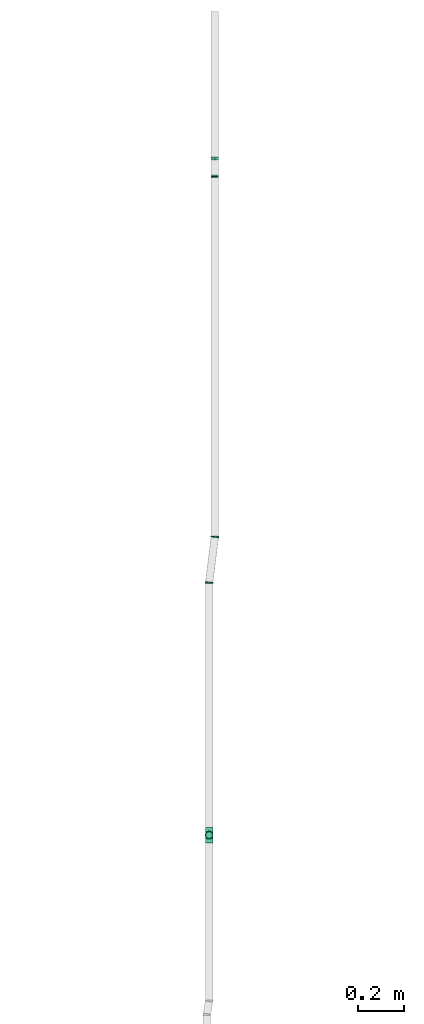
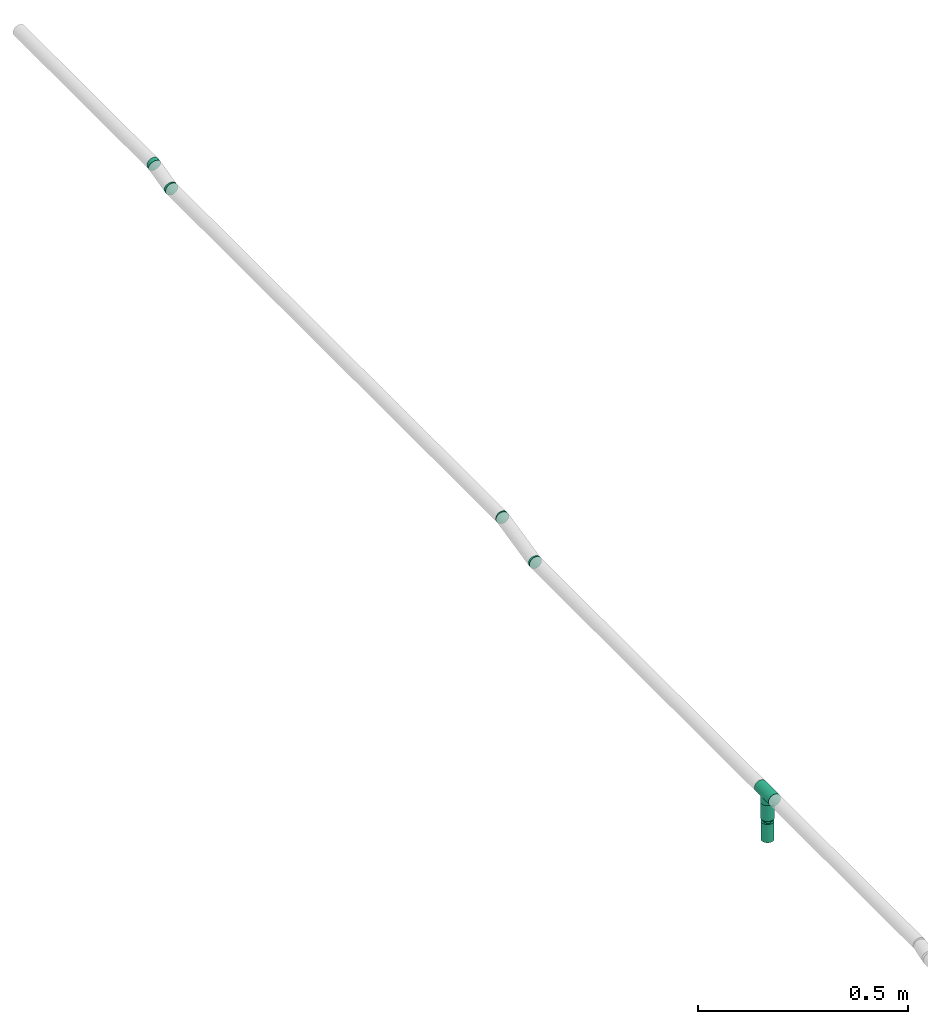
# One storey, part 17 of 32: 6 flow fittings, 1 flow segment, 1 flow terminal.
"""IFC2X3 building model written with IfcOpenShell, lengths in millimetres."""

from ifc_helpers import new_model, entity, si_unit, converted_unit, derived_unit, direction, frame, origin_with_axes, origin_2d_with_axis, place, context, subcontext, project, spatial, hollow_circle, extrude, open_shell, surface_model, source, transform, mapped, type_object, element, save


model = new_model("IFC2X3")

# Units and contexts
model_context = context("Model", 3, precision=0.01, world=frame((0.0, 4.29681676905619e-09, 0.0)), true_north=direction((4.01073788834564e-13, 1.0)))
plan_context = context("Plan", 3, precision=0.01, world=frame((0.0, 4.29681676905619e-09, 0.0)), true_north=direction((4.01073788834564e-13, 1.0)))
body_context = subcontext(model_context, "Body", "Model", "MODEL_VIEW")
ifc_project = project(units=[converted_unit("PLANEANGLEUNIT", "DEGREE", entity("IfcPositiveLengthMeasure", 0.0174532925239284), si_unit("PLANEANGLEUNIT", "RADIAN"), dimensions=[0, 0, 0, 0, 0, 0, 0]), si_unit("AREAUNIT", "SQUARE_METRE"), si_unit("LENGTHUNIT", "METRE", prefix="MILLI"), si_unit("MASSUNIT", "GRAM", prefix="KILO"), si_unit("POWERUNIT", "WATT"), si_unit("PRESSUREUNIT", "PASCAL", prefix="KILO"), si_unit("FORCEUNIT", "NEWTON", prefix="KILO"), si_unit("ELECTRICVOLTAGEUNIT", "VOLT"), si_unit("ELECTRICCURRENTUNIT", "AMPERE"), si_unit("THERMODYNAMICTEMPERATUREUNIT", "DEGREE_CELSIUS"), si_unit("TIMEUNIT", "SECOND"), si_unit("VOLUMEUNIT", "CUBIC_METRE"), derived_unit("LINEARVELOCITYUNIT", [(si_unit("LENGTHUNIT", "METRE"), 1), (si_unit("TIMEUNIT", "SECOND"), -1)]), derived_unit("VOLUMETRICFLOWRATEUNIT", [(si_unit("VOLUMEUNIT", "CUBIC_METRE"), 1), (si_unit("TIMEUNIT", "SECOND"), -1)]), derived_unit("THERMALTRANSMITTANCEUNIT", [(si_unit("POWERUNIT", "WATT"), 1), (si_unit("THERMODYNAMICTEMPERATUREUNIT", "KELVIN"), -1), (si_unit("AREAUNIT", "SQUARE_METRE"), -1)]), derived_unit("SOUNDPRESSUREUNIT", [(si_unit("PRESSUREUNIT", "PASCAL"), 1)])], contexts=[model_context, plan_context])

# Site, building, storey
site_placement = place(None, frame((0.0, -4.29681676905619e-09, 0.0), z_axis=(0.0, 0.0, 1.0), x_axis=(1.0, 0.0, 0.0)))
site = spatial("IfcSite", under=ifc_project, at=site_placement, CompositionType="ELEMENT")
building_placement = place(site_placement, frame((0.0, 4.29681676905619e-09, 0.0), z_axis=(0.0, 0.0, 1.0), x_axis=(1.0, 0.0, 0.0)))
building = spatial("IfcBuilding", under=site, at=building_placement, Name="mc-building", CompositionType="ELEMENT")
storey_placement = place(building_placement, frame((0.0, 0.0, 205200.0), z_axis=(0.0, 0.0, 1.0), x_axis=(1.0, 0.0, 0.0)))
storey = spatial("IfcBuildingStorey", under=building, at=storey_placement, Name="Nivå D + 1,2 m", CompositionType="ELEMENT", Elevation=205200.0)

# Flow fittings
pipe_fitting_type_1 = type_object("IfcPipeFittingType", Name="magi_pipe_fe_tee_centric_90_001", PredefinedType="JUNCTION")
shared_shape_1 = source(origin_with_axes(), body_context, "Body", "SurfaceModel", [
    surface_model("IfcShellBasedSurfaceModel", [(-33.8, 4.37404, -16.32415), (-33.8, 0.0, -16.9), (-33.8, 16.32415, -4.37404), (-33.8, 8.45, -14.63583), (-33.8, 11.9501, -11.9501), (-33.8, 14.63583, -8.45), (-33.8, -16.9, 0.0), (-33.8, -11.9501, -11.9501), (-33.8, -14.63583, -8.45), (-33.8, -8.45, -14.63583), (-33.8, -4.37404, -16.32415), (-33.8, -16.32415, -4.37404), (-33.8, 14.63583, 8.45), (-33.8, 16.32415, 4.37404), (-33.8, -8.45, 14.63583), (-33.8, 8.45, 14.63583), (-33.8, 11.9501, 11.9501), (-33.8, 4.37404, 16.32415), (-33.8, 0.0, 16.9), (-33.8, -11.9501, 11.9501), (-33.8, -14.63583, 8.45), (-33.8, -16.32415, 4.37404), (-33.8, -4.37404, 16.32415), (-33.8, 16.9, 0.0), (33.8, 4.37404, -16.32415), (33.8, -16.9, 0.0), (33.8, 0.0, -16.9), (33.8, 14.63583, -8.45), (33.8, 8.45, -14.63583), (33.8, 16.32415, -4.37404), (33.8, 11.9501, -11.9501), (33.8, -16.32415, 4.37404), (33.8, -8.45, -14.63583), (33.8, -4.37404, -16.32415), (33.8, -11.9501, -11.9501), (33.8, -14.63583, -8.45), (33.8, -16.32415, -4.37404), (33.8, 16.32415, 4.37404), (33.8, 8.45, 14.63583), (33.8, 14.63583, 8.45), (33.8, 11.9501, 11.9501), (33.8, -8.45, 14.63583), (33.8, 4.37404, 16.32415), (33.8, -14.63583, 8.45), (33.8, -11.9501, 11.9501), (33.8, 0.0, 16.9), (33.8, -4.37404, 16.32415), (33.8, 16.9, 0.0), (16.28698, -16.28698, 4.51047), (16.9, -16.9, 0.0), (14.62704, -14.62704, 8.4652), (9.47213, -9.47213, 13.99602), (12.26343, -12.26343, 11.62834), (-16.9, -16.9, 0.0), (-16.28698, -16.28698, 4.51047), (-14.62704, -14.62704, 8.4652), (-12.26343, -12.26343, 11.62834), (-9.47213, -9.47213, 13.99602), (-6.42894, -6.42894, 15.62942), (6.42894, -6.42894, 15.62942), (3.24522, -3.24522, 16.58549), (0.0, 0.0, 16.9), (-3.24522, -3.24522, 16.58549), (3.24522, -3.24522, -16.58549), (0.0, 0.0, -16.9), (-3.24522, -3.24522, -16.58549), (-6.42894, -6.42894, -15.62942), (6.42894, -6.42894, -15.62942), (9.47213, -9.47213, -13.99602), (12.26343, -12.26343, -11.62834), (14.62704, -14.62704, -8.4652), (16.28698, -16.28698, -4.51047), (-9.47213, -9.47213, -13.99602), (-12.26343, -12.26343, -11.62834), (-16.28698, -16.28698, -4.51047), (-14.62704, -14.62704, -8.4652), (4.37404, -25.35, -16.32415), (-16.9, -25.35, 0.0), (0.0, -25.35, -16.9), (14.63583, -25.35, -8.45), (8.45, -25.35, -14.63583), (16.32415, -25.35, -4.37404), (11.9501, -25.35, -11.9501), (-11.9501, -25.35, -11.9501), (-8.45, -25.35, -14.63583), (-4.37404, -25.35, -16.32415), (-14.63583, -25.35, -8.45), (-16.32415, -25.35, -4.37404), (16.9, -25.35, 0.0), (8.45, -25.35, 14.63583), (16.32415, -25.35, 4.37404), (14.63583, -25.35, 8.45), (-8.45, -25.35, 14.63583), (11.9501, -25.35, 11.9501), (4.37404, -25.35, 16.32415), (-16.32415, -25.35, 4.37404), (-11.9501, -25.35, 11.9501), (-14.63583, -25.35, 8.45), (0.0, -25.35, 16.9), (-4.37404, -25.35, 16.32415)], [open_shell([[[0, 1, 2]], [[3, 0, 4]], [[0, 2, 5]], [[4, 0, 5]], [[6, 2, 1]], [[7, 8, 9]], [[1, 10, 9]], [[11, 6, 8]], [[1, 9, 8]], [[1, 8, 6]], [[6, 12, 2]], [[12, 13, 2]], [[14, 12, 6]], [[12, 14, 15]], [[16, 12, 15]], [[17, 15, 18]], [[19, 14, 20]], [[21, 20, 14]], [[22, 18, 14]], [[14, 6, 21]], [[14, 18, 15]], [[23, 2, 13]], [[24, 25, 26]], [[27, 24, 28]], [[27, 29, 24]], [[27, 28, 30]], [[31, 25, 24]], [[26, 32, 33]], [[26, 34, 32]], [[35, 25, 36]], [[35, 34, 26]], [[25, 35, 26]], [[24, 29, 31]], [[29, 37, 38]], [[38, 37, 39]], [[38, 31, 29]], [[38, 39, 40]], [[41, 38, 42]], [[43, 41, 44]], [[41, 43, 31]], [[41, 45, 46]], [[41, 31, 38]], [[42, 45, 41]], [[29, 47, 37]], [[31, 43, 48]], [[25, 31, 49]], [[49, 31, 48]], [[43, 50, 48]], [[44, 41, 51]], [[50, 43, 52]], [[51, 52, 44]], [[52, 43, 44]], [[53, 54, 21]], [[53, 21, 6]], [[21, 54, 20]], [[54, 55, 20]], [[56, 57, 19]], [[19, 20, 56]], [[19, 57, 14]], [[56, 20, 55]], [[14, 57, 58]], [[51, 41, 59]], [[60, 45, 61]], [[59, 46, 60]], [[46, 59, 41]], [[60, 46, 45]], [[61, 45, 42]], [[39, 37, 13]], [[16, 38, 40]], [[12, 40, 39]], [[42, 38, 15]], [[23, 37, 47]], [[62, 61, 18]], [[62, 22, 58]], [[22, 62, 18]], [[58, 22, 14]], [[61, 17, 18]], [[42, 17, 61]], [[15, 17, 42]], [[15, 38, 16]], [[12, 16, 40]], [[13, 12, 39]], [[37, 23, 13]], [[5, 27, 30]], [[23, 47, 29]], [[30, 28, 3]], [[27, 2, 29]], [[26, 33, 63]], [[26, 64, 24]], [[64, 26, 63]], [[28, 24, 0]], [[64, 0, 24]], [[4, 30, 3]], [[2, 27, 5]], [[5, 30, 4]], [[2, 23, 29]], [[65, 66, 10]], [[1, 0, 64]], [[1, 65, 10]], [[66, 9, 10]], [[0, 3, 28]], [[1, 64, 65]], [[63, 33, 67]], [[32, 34, 68]], [[69, 68, 34]], [[35, 70, 69]], [[69, 34, 35]], [[32, 68, 67]], [[36, 25, 49]], [[36, 71, 35]], [[71, 36, 49]], [[35, 71, 70]], [[72, 9, 66]], [[72, 7, 9]], [[7, 72, 73]], [[7, 73, 8]], [[74, 53, 11]], [[75, 74, 8]], [[74, 11, 8]], [[11, 53, 6]], [[75, 8, 73]], [[32, 67, 33]], [[76, 77, 78]], [[79, 76, 80]], [[79, 81, 76]], [[79, 80, 82]], [[77, 76, 81]], [[78, 83, 84]], [[84, 85, 78]], [[86, 77, 87]], [[83, 78, 86]], [[77, 86, 78]], [[81, 88, 77]], [[89, 88, 90]], [[89, 90, 91]], [[92, 77, 89]], [[89, 91, 93]], [[92, 89, 94]], [[95, 96, 97]], [[96, 95, 92]], [[92, 98, 99]], [[95, 77, 92]], [[94, 98, 92]], [[89, 77, 88]], [[77, 95, 53]], [[54, 53, 95]], [[97, 96, 56]], [[96, 92, 57]], [[95, 97, 54]], [[58, 92, 99]], [[55, 54, 97]], [[56, 55, 97]], [[58, 57, 92]], [[98, 61, 62]], [[58, 99, 62]], [[56, 96, 57]], [[62, 99, 98]], [[94, 60, 98]], [[89, 59, 94]], [[91, 90, 48]], [[52, 93, 91]], [[93, 51, 89]], [[49, 90, 88]], [[59, 60, 94]], [[51, 59, 89]], [[49, 48, 90]], [[50, 52, 91]], [[48, 50, 91]], [[51, 93, 52]], [[98, 60, 61]], [[88, 81, 49]], [[71, 49, 81]], [[79, 82, 69]], [[82, 80, 68]], [[81, 79, 71]], [[67, 80, 76]], [[70, 71, 79]], [[69, 70, 79]], [[67, 68, 80]], [[78, 64, 63]], [[67, 76, 63]], [[69, 82, 68]], [[63, 76, 78]], [[85, 65, 78]], [[84, 66, 85]], [[86, 87, 74]], [[86, 73, 83]], [[72, 84, 83]], [[53, 87, 77]], [[66, 65, 85]], [[72, 66, 84]], [[53, 74, 87]], [[75, 73, 86]], [[74, 75, 86]], [[72, 83, 73]], [[78, 65, 64]]])]),
])
flow_fitting_1_placement = place(storey_placement, frame((338492.5, 463922.26745, 4424.13733999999), z_axis=(-1.0, 0.0, 0.0), x_axis=(0.0, -1.0, 0.0)))
element("IfcFlowFitting", 1, at=flow_fitting_1_placement, inside=storey, type_object=pipe_fitting_type_1, Name="magi_pipe_fe_tee_centric_90_001", context=body_context, shape_type="MappedRepresentation", body=[
    mapped(shared_shape_1, transform((0.0, 0.0, 0.0), scale=1.0)),
])
pipe_fitting_type_2 = type_object("IfcPipeFittingType", Name="magi_pipe_fe_reducer_centric_short_001", PredefinedType="TRANSITION")
shared_shape_2 = source(origin_with_axes(), body_context, "Body", "SurfaceModel", [
    surface_model("IfcShellBasedSurfaceModel", [(-2.0, 11.9501, 11.9501), (-2.0, 0.0, 16.9), (-2.0, 4.37404, 16.32415), (-2.0, 8.45, 14.63583), (-2.0, 14.63583, 8.45), (-2.0, 16.32415, 4.37404), (-2.0, -16.32415, 4.37404), (-2.0, -8.45, 14.63583), (-2.0, -14.63583, 8.45), (-2.0, -11.9501, 11.9501), (-2.0, -4.37404, 16.32415), (-2.0, -16.32415, -4.37404), (-2.0, -16.9, 0.0), (-2.0, -8.45, -14.63583), (-2.0, 16.32415, -4.37404), (-2.0, 11.9501, -11.9501), (-2.0, 14.63583, -8.45), (-2.0, 8.45, -14.63583), (-2.0, 4.37404, -16.32415), (-2.0, 0.0, -16.9), (-2.0, -11.9501, -11.9501), (-2.0, -14.63583, -8.45), (-2.0, -4.37404, -16.32415), (-2.0, 16.9, 0.0), (0.0, 4.37404, -16.32415), (0.0, 8.45, -14.63583), (0.0, 11.9501, -11.9501), (0.0, 0.0, -16.9), (0.0, 16.32415, -4.37404), (0.0, 16.32415, 4.37404), (0.0, 14.63583, -8.45), (0.0, -8.45, -14.63583), (0.0, -4.37404, -16.32415), (0.0, -11.9501, -11.9501), (0.0, -16.32415, -4.37404), (0.0, -14.63583, -8.45), (0.0, -16.32415, 4.37404), (0.0, 16.9, 0.0), (0.0, 14.63583, 8.45), (0.0, 11.9501, 11.9501), (0.0, 4.37404, 16.32415), (0.0, 8.45, 14.63583), (0.0, 0.0, 16.9), (0.0, -14.63583, 8.45), (0.0, -16.9, 0.0), (0.0, -8.45, 14.63583), (0.0, -11.9501, 11.9501), (0.0, -4.37404, 16.32415), (14.4, 5.35, -9.26647), (14.4, 0.0, -10.7), (14.4, 2.76936, -10.33541), (14.4, 10.33541, -2.76936), (14.4, 7.56604, -7.56604), (14.4, -5.35, -9.26647), (14.4, 9.26647, -5.35), (14.4, -9.26647, 5.35), (14.4, -2.76936, -10.33541), (14.4, -7.56604, -7.56604), (14.4, -10.33541, -2.76936), (14.4, -9.26647, -5.35), (14.4, 10.33541, 2.76936), (14.4, 10.7, 0.0), (14.4, 9.26647, 5.35), (14.4, 7.56604, 7.56604), (14.4, 2.76936, 10.33541), (14.4, 0.0, 10.7), (14.4, 5.35, 9.26647), (14.4, -10.33541, 2.76936), (14.4, -10.7, 0.0), (14.4, -7.56604, 7.56604), (14.4, -2.76936, 10.33541), (14.4, -5.35, 9.26647), (12.4, 0.0, 10.7), (12.4, 2.76936, 10.33541), (12.4, 5.35, 9.26647), (12.4, 7.56604, 7.56604), (12.4, 9.26647, 5.35), (12.4, 10.33541, 2.76936), (12.4, -10.33541, 2.76936), (12.4, 10.33541, -2.76936), (12.4, -2.76936, 10.33541), (12.4, -7.56604, 7.56604), (12.4, -5.35, 9.26647), (12.4, -9.26647, 5.35), (12.4, -10.33541, -2.76936), (12.4, -10.7, 0.0), (12.4, 2.76936, -10.33541), (12.4, 9.26647, -5.35), (12.4, 7.56604, -7.56604), (12.4, 5.35, -9.26647), (12.4, -7.56604, -7.56604), (12.4, -9.26647, -5.35), (12.4, -5.35, -9.26647), (12.4, 0.0, -10.7), (12.4, -2.76936, -10.33541), (12.4, 10.7, 0.0), (12.4, 9.3625, -2.31662), (0.0, 14.42505, -5.97505), (0.0, 15.66253, -2.98753), (12.4, -6.6875, -6.94985), (0.0, -13.18758, -8.96258), (0.0, 2.98753, -15.66253), (12.4, 0.0, -9.26647), (12.4, 6.6875, -6.94985), (0.0, 8.96258, -13.18758), (12.4, -9.3625, -2.31662), (0.0, -15.66253, -2.98753), (0.0, -14.42505, -5.97505), (0.0, 5.97505, -14.42505), (0.0, -2.98753, -15.66253), (0.0, -8.96258, -13.18758), (0.0, 13.18758, -8.96258), (12.4, 8.025, -4.63324), (12.4, -2.675, -9.26647), (12.4, 2.675, -9.26647), (0.0, -5.97505, -14.42505), (12.4, -8.025, -4.63324), (12.4, -9.3625, 2.31662), (0.0, -14.42505, 5.97505), (0.0, -15.66253, 2.98753), (12.4, 6.6875, 6.94985), (0.0, 13.18758, 8.96258), (0.0, -2.98753, 15.66253), (12.4, 0.0, 9.26647), (12.4, -6.6875, 6.94985), (0.0, -8.96258, 13.18758), (12.4, 9.3625, 2.31662), (0.0, 15.66253, 2.98753), (0.0, 14.42505, 5.97505), (0.0, -5.97505, 14.42505), (0.0, 2.98753, 15.66253), (0.0, 8.96258, 13.18758), (0.0, -13.18758, 8.96258), (12.4, -8.025, 4.63324), (12.4, 2.675, 9.26647), (12.4, -2.675, 9.26647), (0.0, 5.97505, 14.42505), (12.4, 8.025, 4.63324)], [open_shell([[[0, 1, 2]], [[0, 2, 3]], [[0, 4, 5]], [[0, 5, 1]], [[1, 5, 6]], [[7, 8, 9]], [[7, 10, 1]], [[8, 7, 1]], [[1, 6, 8]], [[6, 11, 12]], [[6, 5, 13]], [[5, 14, 15]], [[15, 14, 16]], [[15, 17, 18]], [[13, 5, 15]], [[19, 15, 18]], [[11, 20, 21]], [[20, 11, 13]], [[13, 19, 22]], [[11, 6, 13]], [[15, 19, 13]], [[5, 23, 14]], [[24, 25, 26]], [[27, 24, 26]], [[26, 28, 29]], [[28, 26, 30]], [[26, 29, 31]], [[27, 31, 32]], [[27, 26, 31]], [[33, 34, 35]], [[34, 33, 31]], [[31, 36, 34]], [[29, 28, 37]], [[29, 38, 39]], [[29, 39, 40]], [[40, 36, 31]], [[40, 39, 41]], [[36, 40, 42]], [[42, 43, 36]], [[44, 34, 36]], [[43, 45, 46]], [[43, 42, 45]], [[45, 42, 47]], [[31, 29, 40]], [[11, 34, 12]], [[21, 35, 11]], [[31, 20, 13]], [[21, 20, 33]], [[32, 13, 22]], [[11, 35, 34]], [[34, 44, 12]], [[32, 31, 13]], [[33, 20, 31]], [[33, 35, 21]], [[27, 32, 22]], [[22, 19, 27]], [[18, 24, 19]], [[17, 25, 18]], [[30, 15, 16]], [[17, 15, 26]], [[28, 16, 14]], [[17, 26, 25]], [[25, 24, 18]], [[37, 28, 14]], [[30, 16, 28]], [[30, 26, 15]], [[23, 37, 14]], [[19, 24, 27]], [[5, 29, 23]], [[4, 38, 5]], [[41, 0, 3]], [[4, 0, 39]], [[40, 3, 2]], [[5, 38, 29]], [[29, 37, 23]], [[40, 41, 3]], [[39, 0, 41]], [[39, 38, 4]], [[42, 40, 2]], [[2, 1, 42]], [[10, 47, 1]], [[7, 45, 10]], [[43, 9, 8]], [[7, 9, 46]], [[36, 8, 6]], [[7, 46, 45]], [[45, 47, 10]], [[44, 36, 6]], [[43, 8, 36]], [[43, 46, 9]], [[12, 44, 6]], [[1, 47, 42]], [[33, 44, 27]], [[48, 49, 50]], [[51, 48, 52]], [[53, 48, 51]], [[51, 52, 54]], [[55, 53, 51]], [[49, 53, 56]], [[49, 48, 53]], [[57, 58, 59]], [[58, 57, 53]], [[53, 55, 58]], [[60, 51, 61]], [[60, 62, 63]], [[51, 63, 55]], [[64, 65, 63]], [[64, 63, 66]], [[55, 63, 65]], [[58, 67, 68]], [[55, 67, 58]], [[69, 70, 71]], [[70, 69, 55]], [[65, 70, 55]], [[51, 60, 63]], [[72, 73, 74]], [[72, 74, 75]], [[75, 76, 77]], [[72, 75, 78]], [[79, 78, 75]], [[80, 81, 82]], [[81, 80, 78]], [[81, 78, 83]], [[80, 72, 78]], [[78, 84, 85]], [[79, 75, 77]], [[84, 78, 79]], [[86, 79, 87]], [[88, 89, 86]], [[88, 86, 87]], [[84, 79, 86]], [[84, 90, 91]], [[90, 84, 92]], [[92, 93, 94]], [[92, 84, 86]], [[86, 93, 92]], [[79, 77, 95]], [[84, 58, 85]], [[91, 59, 84]], [[53, 90, 92]], [[91, 90, 57]], [[56, 92, 94]], [[84, 59, 58]], [[58, 68, 85]], [[56, 53, 92]], [[57, 90, 53]], [[57, 59, 91]], [[49, 56, 94]], [[94, 93, 49]], [[86, 50, 93]], [[89, 48, 86]], [[54, 88, 87]], [[89, 88, 52]], [[51, 87, 79]], [[89, 52, 48]], [[48, 50, 86]], [[61, 51, 79]], [[54, 87, 51]], [[54, 52, 88]], [[95, 61, 79]], [[93, 50, 49]], [[77, 60, 95]], [[76, 62, 77]], [[66, 75, 74]], [[76, 75, 63]], [[64, 74, 73]], [[77, 62, 60]], [[60, 61, 95]], [[64, 66, 74]], [[63, 75, 66]], [[63, 62, 76]], [[65, 64, 73]], [[73, 72, 65]], [[80, 70, 72]], [[82, 71, 80]], [[55, 81, 83]], [[82, 81, 69]], [[67, 83, 78]], [[82, 69, 71]], [[71, 70, 80]], [[68, 67, 78]], [[55, 83, 67]], [[55, 69, 81]], [[85, 68, 78]], [[72, 70, 65]], [[74, 82, 95]], [[95, 82, 92]], [[92, 89, 95]], [[92, 82, 85]], [[42, 39, 44]], [[44, 46, 42]], [[39, 26, 44]], [[27, 44, 26]], [[26, 39, 37]], [[96, 97, 98]], [[33, 99, 100]], [[101, 102, 27]], [[98, 37, 95]], [[26, 103, 104]], [[104, 103, 89]], [[105, 106, 107]], [[89, 108, 104]], [[102, 109, 27]], [[110, 99, 33]], [[95, 96, 98]], [[103, 111, 112]], [[109, 102, 113]], [[85, 44, 106]], [[102, 101, 114]], [[110, 115, 92]], [[96, 112, 97]], [[107, 116, 105]], [[85, 106, 105]], [[113, 115, 109]], [[92, 115, 113]], [[116, 107, 100]], [[108, 89, 114]], [[111, 103, 26]], [[111, 97, 112]], [[99, 110, 92]], [[116, 100, 99]], [[101, 108, 114]], [[117, 118, 119]], [[39, 120, 121]], [[122, 123, 42]], [[119, 44, 85]], [[46, 124, 125]], [[125, 124, 82]], [[126, 127, 128]], [[82, 129, 125]], [[123, 130, 42]], [[131, 120, 39]], [[85, 117, 119]], [[124, 132, 133]], [[130, 123, 134]], [[95, 37, 127]], [[123, 122, 135]], [[131, 136, 74]], [[117, 133, 118]], [[128, 137, 126]], [[95, 127, 126]], [[134, 136, 130]], [[74, 136, 134]], [[137, 128, 121]], [[129, 82, 135]], [[132, 124, 46]], [[132, 118, 133]], [[120, 131, 74]], [[137, 121, 120]], [[122, 129, 135]]])]),
])
flow_fitting_2_placement = place(storey_placement, frame((338492.5, 463922.26745, 4352.78346000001), z_axis=(1.0, 0.0, 0.0), x_axis=(0.0, 0.0, -1.0)))
element("IfcFlowFitting", 2, at=flow_fitting_2_placement, inside=storey, type_object=pipe_fitting_type_2, Name="magi_pipe_fe_reducer_centric_short_001", context=body_context, shape_type="MappedRepresentation", body=[
    mapped(shared_shape_2, transform((0.0, 0.0, 0.0), scale=1.0)),
])
pipe_fitting_type_3 = type_object("IfcPipeFittingType", Name="magi_pipe_fe_elbow_short_001", PredefinedType="BEND")
shared_shape_3 = source(origin_with_axes(), body_context, "Body", "SurfaceModel", [
    surface_model("IfcShellBasedSurfaceModel", [(-2.10431, 4.37404, -16.32415), (-2.10431, 0.0, -16.9), (-2.10431, 11.9501, -11.9501), (-2.10431, 8.45, -14.63583), (-2.10431, 16.32415, -4.37404), (-2.10431, 14.63583, -8.45), (-2.10431, -14.63583, -8.45), (-2.10431, -16.32415, -4.37404), (-2.10431, -8.45, 14.63583), (-2.10431, -11.9501, -11.9501), (-2.10431, -8.45, -14.63583), (-2.10431, -4.37404, -16.32415), (-2.10431, -16.9, 0.0), (-2.10431, -16.32415, 4.37404), (-2.10431, 11.9501, 11.9501), (-2.10431, 16.32415, 4.37404), (-2.10431, 14.63583, 8.45), (-2.10431, 4.37404, 16.32415), (-2.10431, 8.45, 14.63583), (-2.10431, -14.63583, 8.45), (-2.10431, -11.9501, 11.9501), (-2.10431, -4.37404, 16.32415), (-2.10431, 0.0, 16.9), (-2.10431, 16.9, 0.0), (4.18425, -16.50849, 0.0), (2.08806, 0.26101, -16.9), (1.54553, 4.60127, -16.32415), (1.03997, 8.64576, -14.63583), (0.27271, 14.78382, -8.45), (0.60583, 12.11883, -11.9501), (4.11282, -15.93708, 4.37404), (3.13616, -8.12374, -14.63583), (3.90341, -14.2618, -8.45), (3.57029, -11.59682, -11.9501), (2.6306, -4.07926, -16.32415), (4.11282, -15.93708, -4.37404), (0.0633, 16.4591, -4.37404), (0.60583, 12.11883, 11.9501), (-0.00812, 17.0305, 0.0), (0.0633, 16.4591, 4.37404), (0.27271, 14.78382, 8.45), (1.03997, 8.64576, 14.63583), (1.54553, 4.60127, 16.32415), (3.13616, -8.12374, 14.63583), (3.57029, -11.59682, 11.9501), (3.90341, -14.2618, 8.45), (2.08806, 0.26101, 16.9), (2.6306, -4.07926, 16.32415), (-1.05419, 16.93266, 0.0), (1.04606, -16.80203, 0.0)], [open_shell([[[0, 1, 2]], [[3, 0, 2]], [[4, 5, 2]], [[6, 2, 1]], [[2, 7, 8]], [[9, 6, 10]], [[1, 11, 10]], [[1, 10, 6]], [[6, 7, 2]], [[12, 13, 7]], [[4, 2, 14]], [[14, 15, 4]], [[16, 15, 14]], [[17, 18, 14]], [[2, 8, 14]], [[17, 14, 8]], [[19, 20, 13]], [[13, 20, 7]], [[21, 22, 8]], [[20, 8, 7]], [[8, 22, 17]], [[23, 4, 15]], [[24, 25, 26]], [[27, 24, 26]], [[24, 27, 28]], [[28, 27, 29]], [[30, 24, 28]], [[31, 32, 33]], [[31, 34, 25]], [[31, 35, 32]], [[35, 31, 24]], [[25, 24, 31]], [[28, 36, 30]], [[37, 38, 39]], [[37, 39, 40]], [[37, 41, 42]], [[38, 37, 43]], [[43, 37, 42]], [[30, 44, 45]], [[30, 38, 44]], [[43, 46, 47]], [[44, 38, 43]], [[42, 46, 43]], [[38, 30, 36]], [[44, 8, 20]], [[20, 19, 45]], [[46, 22, 21]], [[22, 46, 17]], [[21, 8, 43]], [[30, 19, 13]], [[16, 14, 40]], [[18, 37, 14]], [[48, 15, 39]], [[48, 23, 15]], [[39, 15, 16]], [[41, 18, 17]], [[13, 12, 49]], [[43, 47, 21]], [[8, 44, 43]], [[47, 46, 21]], [[19, 30, 45]], [[20, 45, 44]], [[30, 49, 24]], [[40, 39, 16]], [[38, 48, 39]], [[41, 17, 42]], [[18, 41, 37]], [[40, 14, 37]], [[42, 17, 46]], [[13, 49, 30]], [[11, 1, 25]], [[1, 0, 25]], [[28, 2, 5]], [[3, 2, 29]], [[3, 27, 0]], [[4, 36, 5]], [[49, 12, 7]], [[35, 49, 7]], [[33, 9, 10]], [[7, 6, 35]], [[9, 32, 6]], [[31, 10, 11]], [[4, 23, 48]], [[48, 38, 36]], [[36, 28, 5]], [[3, 29, 27]], [[0, 27, 26]], [[2, 28, 29]], [[26, 25, 0]], [[31, 11, 34]], [[33, 10, 31]], [[6, 32, 35]], [[35, 24, 49]], [[32, 9, 33]], [[25, 34, 11]], [[4, 48, 36]]])]),
])
for number, where, z_axis, x_axis, name in (
    (3, (338517.5, 465226.06745, 4424.13733999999), (0.0, 0.0, 1.0), (0.124034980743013, 0.992277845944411, 0.0), "magi_pipe_fe_elbow_short_001"),
    (4, (338492.5, 465026.06745, 4424.13733999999), (0.0, 0.0, 1.0), (-0.124034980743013, -0.992277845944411, 0.0), "magi_pipe_fe_elbow_short_001"),
):
    element("IfcFlowFitting", number, at=place(storey_placement, frame(where, z_axis=z_axis, x_axis=x_axis)), inside=storey, type_object=pipe_fitting_type_3, Name=name, context=body_context, shape_type="MappedRepresentation", body=[
        mapped(shared_shape_3, transform((0.0, 0.0, 0.0), scale=1.0)),
    ])
shared_shape_4 = source(origin_with_axes(), body_context, "Body", "SurfaceModel", [
    surface_model("IfcShellBasedSurfaceModel", [(-4.16097, 4.37404, -16.32415), (-4.16097, 0.0, -16.9), (-4.16097, 11.9501, -11.9501), (-4.16097, 8.45, -14.63583), (-4.16097, 16.32415, -4.37404), (-4.16097, 14.63583, -8.45), (-4.16097, -14.63583, -8.45), (-4.16097, -16.32415, -4.37404), (-4.16097, -8.45, 14.63583), (-4.16097, -11.9501, -11.9501), (-4.16097, -8.45, -14.63583), (-4.16097, -4.37404, -16.32415), (-4.16097, -16.9, 0.0), (-4.16097, -16.32415, 4.37404), (-4.16097, 11.9501, 11.9501), (-4.16097, 16.32415, 4.37404), (-4.16097, 14.63583, 8.45), (-4.16097, 4.37404, 16.32415), (-4.16097, 8.45, 14.63583), (-4.16097, -14.63583, 8.45), (-4.16097, -11.9501, 11.9501), (-4.16097, -4.37404, 16.32415), (-4.16097, 0.0, 16.9), (-4.16097, 16.9, 0.0), (1.13841, 12.60249, -11.9501), (4.03673, 1.00918, -16.9), (2.97587, 5.25263, -16.32415), (1.98731, 9.20689, -14.63583), (0.48702, 15.20802, -8.45), (0.07755, 16.84593, -4.37404), (7.58644, -13.18966, -8.45), (6.08616, -7.18852, -14.63583), (6.93506, -10.58412, -11.9501), (5.09759, -3.23426, -16.32415), (8.13559, -15.38622, 0.0), (7.99592, -14.82757, -4.37404), (6.93506, -10.58412, 11.9501), (1.13841, 12.60249, 11.9501), (0.07755, 16.84593, 4.37404), (0.48702, 15.20802, 8.45), (1.98731, 9.20689, 14.63583), (2.97587, 5.25263, 16.32415), (7.58644, -13.18966, 8.45), (7.99592, -14.82757, 4.37404), (5.09759, -3.23426, 16.32415), (6.08616, -7.18852, 14.63583), (4.03673, 1.00918, 16.9), (-0.06212, 17.40459, 0.0), (-2.09607, 17.02662, 0.0), (2.03372, -16.52013, 0.0)], [open_shell([[[0, 1, 2]], [[3, 0, 2]], [[4, 5, 2]], [[6, 2, 1]], [[2, 7, 8]], [[9, 6, 10]], [[1, 11, 10]], [[1, 10, 6]], [[6, 7, 2]], [[12, 13, 7]], [[4, 2, 14]], [[14, 15, 4]], [[16, 15, 14]], [[17, 18, 14]], [[2, 8, 14]], [[17, 14, 8]], [[19, 20, 13]], [[13, 20, 7]], [[21, 22, 8]], [[20, 8, 7]], [[8, 22, 17]], [[23, 4, 15]], [[24, 25, 26]], [[24, 26, 27]], [[24, 28, 29]], [[25, 24, 30]], [[30, 24, 29]], [[31, 30, 32]], [[30, 31, 33]], [[30, 34, 35]], [[30, 33, 25]], [[30, 36, 34]], [[30, 29, 37]], [[29, 38, 37]], [[37, 38, 39]], [[37, 40, 41]], [[37, 36, 30]], [[36, 37, 41]], [[42, 43, 34]], [[36, 42, 34]], [[36, 44, 45]], [[44, 36, 46]], [[41, 46, 36]], [[38, 29, 47]], [[43, 19, 13]], [[45, 8, 20]], [[44, 21, 8]], [[46, 22, 21]], [[17, 22, 41]], [[36, 20, 19]], [[16, 14, 39]], [[18, 37, 14]], [[48, 15, 38]], [[48, 23, 15]], [[38, 15, 16]], [[40, 18, 17]], [[13, 12, 49]], [[45, 44, 8]], [[20, 36, 45]], [[44, 46, 21]], [[34, 43, 49]], [[19, 42, 36]], [[19, 43, 42]], [[39, 38, 16]], [[47, 48, 38]], [[40, 17, 41]], [[18, 40, 37]], [[39, 14, 37]], [[41, 22, 46]], [[13, 49, 43]], [[25, 1, 0]], [[33, 11, 1]], [[28, 2, 5]], [[2, 24, 3]], [[27, 0, 3]], [[4, 29, 5]], [[49, 12, 7]], [[35, 49, 7]], [[32, 9, 10]], [[7, 6, 35]], [[9, 30, 6]], [[31, 10, 11]], [[4, 23, 48]], [[48, 47, 29]], [[29, 28, 5]], [[27, 3, 24]], [[26, 0, 27]], [[2, 28, 24]], [[26, 25, 0]], [[31, 11, 33]], [[32, 10, 31]], [[6, 30, 35]], [[35, 34, 49]], [[30, 9, 32]], [[25, 33, 1]], [[4, 48, 29]]])]),
])
for number, where, z_axis, x_axis, name in (
    (5, (338517.5, 466799.85499, 4424.13733999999), (1.0, 0.0, 0.0), (0.0, 1.0, 0.0), "magi_pipe_fe_elbow_short_001"),
    (6, (338517.5, 466881.03146, 4444.43145999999), (1.0, 0.0, 0.0), (0.0, -1.0, 0.0), "magi_pipe_fe_elbow_short_001"),
):
    element("IfcFlowFitting", number, at=place(storey_placement, frame(where, z_axis=z_axis, x_axis=x_axis)), inside=storey, type_object=pipe_fitting_type_3, Name=name, context=body_context, shape_type="MappedRepresentation", body=[
        mapped(shared_shape_4, transform((0.0, 0.0, 0.0), scale=1.0)),
    ])

# Flow segment
pipe_segment_type = type_object("IfcPipeSegmentType", Name="Stålrør normaltykke", PredefinedType="RIGIDSEGMENT")
shared_shape_5 = source(origin_with_axes(), body_context, "Body", "SweptSolid", [
    extrude(hollow_circle(Radius=16.9, WallThickness=2.0, at=origin_2d_with_axis()), frame((0.0, 0.0, 0.0), z_axis=(1.0, 0.0, 0.0), x_axis=(0.0, 1.0, 0.0)), (0.0, 0.0, 1.0), 46.0),
])
flow_segment_placement = place(storey_placement, frame((338492.5, 463922.26745, 4398.78734000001), z_axis=(-1.0, 0.0, 0.0), x_axis=(0.0, 0.0, -1.0)))
element("IfcFlowSegment", 7, at=flow_segment_placement, inside=storey, type_object=pipe_segment_type, Name="Stålrør normaltykke", context=body_context, shape_type="MappedRepresentation", body=[
    mapped(shared_shape_5, transform((0.0, 0.0, 0.0), scale=1.0)),
])

# Flow terminal
fire_suppression_terminal_type = type_object("IfcFireSuppressionTerminalType", Name="SP-15-K80-68DGR-STD-NEDOVER", PredefinedType="NOTDEFINED")
shared_shape_6 = source(origin_with_axes(), body_context, "Body", "SurfaceModel", [
    surface_model("IfcShellBasedSurfaceModel", [(4.1411, -15.45481, 53.0), (8.0, -13.85641, 53.0), (11.31371, -11.31371, 53.0), (-8.0, -13.85641, 53.0), (15.45481, -4.1411, 53.0), (16.0, 0.0, 53.0), (13.85641, -8.0, 53.0), (0.0, -16.0, 53.0), (-4.1411, -15.45481, 53.0), (-13.85641, -8.0, 53.0), (-11.31371, -11.31371, 53.0), (-15.45481, -4.1411, 53.0), (15.45481, 4.1411, 53.0), (13.85641, 8.0, 53.0), (11.31371, 11.31371, 53.0), (-4.1411, 15.45481, 53.0), (8.0, 13.85641, 53.0), (4.1411, 15.45481, 53.0), (0.0, 16.0, 53.0), (-13.85641, 8.0, 53.0), (-15.45481, 4.1411, 53.0), (-16.0, 0.0, 53.0), (-11.31371, 11.31371, 53.0), (-8.0, 13.85641, 53.0), (0.0, 16.0, 0.0), (4.1411, 15.45481, 0.0), (8.0, 13.85641, 0.0), (-4.1411, 15.45481, 0.0), (11.31371, 11.31371, 0.0), (13.85641, 8.0, 0.0), (15.45481, 4.1411, 0.0), (-15.45481, -4.1411, 0.0), (-11.31371, 11.31371, 0.0), (-8.0, 13.85641, 0.0), (-13.85641, 8.0, 0.0), (-15.45481, 4.1411, 0.0), (-16.0, 0.0, 0.0), (4.1411, -15.45481, 0.0), (16.0, 0.0, 0.0), (15.45481, -4.1411, 0.0), (13.85641, -8.0, 0.0), (11.31371, -11.31371, 0.0), (8.0, -13.85641, 0.0), (-8.0, -13.85641, 0.0), (-13.85641, -8.0, 0.0), (-11.31371, -11.31371, 0.0), (0.0, -16.0, 0.0), (-4.1411, -15.45481, 0.0)], [open_shell([[[0, 1, 2]], [[3, 0, 2]], [[4, 5, 2]], [[4, 2, 6]], [[3, 2, 5]], [[7, 3, 8]], [[7, 0, 3]], [[3, 9, 10]], [[9, 3, 11]], [[5, 11, 3]], [[5, 12, 11]], [[12, 13, 14]], [[15, 12, 14]], [[16, 17, 18]], [[14, 16, 15]], [[18, 15, 16]], [[11, 19, 20]], [[21, 11, 20]], [[22, 15, 23]], [[15, 22, 19]], [[19, 11, 15]], [[11, 12, 15]], [[24, 25, 26]], [[27, 24, 26]], [[28, 29, 30]], [[27, 26, 28]], [[27, 28, 31]], [[27, 32, 33]], [[32, 27, 34]], [[34, 31, 35]], [[31, 34, 27]], [[35, 31, 36]], [[28, 30, 31]], [[37, 38, 39]], [[37, 39, 40]], [[41, 42, 37]], [[41, 37, 40]], [[38, 37, 43]], [[44, 43, 45]], [[43, 44, 31]], [[43, 46, 47]], [[43, 31, 38]], [[37, 46, 43]], [[38, 31, 30]], [[11, 31, 44]], [[45, 9, 44]], [[3, 43, 47]], [[45, 43, 10]], [[8, 47, 46]], [[31, 21, 36]], [[31, 11, 21]], [[44, 9, 11]], [[45, 10, 9]], [[3, 10, 43]], [[47, 8, 3]], [[46, 7, 8]], [[0, 37, 42]], [[41, 1, 42]], [[6, 40, 39]], [[41, 40, 2]], [[4, 39, 38]], [[37, 0, 7]], [[42, 1, 0]], [[41, 2, 1]], [[40, 6, 2]], [[4, 6, 39]], [[38, 5, 4]], [[37, 7, 46]], [[12, 38, 30]], [[13, 30, 29]], [[16, 26, 25]], [[17, 25, 24]], [[30, 13, 12]], [[12, 5, 38]], [[28, 14, 13]], [[28, 26, 14]], [[14, 26, 16]], [[25, 17, 16]], [[28, 13, 29]], [[24, 18, 17]], [[15, 27, 33]], [[32, 23, 33]], [[19, 34, 35]], [[32, 34, 22]], [[20, 35, 36]], [[27, 15, 18]], [[33, 23, 15]], [[32, 22, 23]], [[34, 19, 22]], [[20, 19, 35]], [[36, 21, 20]], [[27, 18, 24]]])]),
])
flow_terminal_placement = place(storey_placement, frame((338492.5, 463922.26745, 4343.43145999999), z_axis=(0.0, 0.0, -1.0), x_axis=(1.0, 0.0, 0.0)))
element("IfcFlowTerminal", 8, at=flow_terminal_placement, inside=storey, type_object=fire_suppression_terminal_type, Name="SP-15-K80-68DGR-STD-NEDOVER", context=body_context, shape_type="MappedRepresentation", body=[
    mapped(shared_shape_6, transform((0.0, 0.0, 0.0), scale=1.0)),
])

save(model, "model.ifc")
